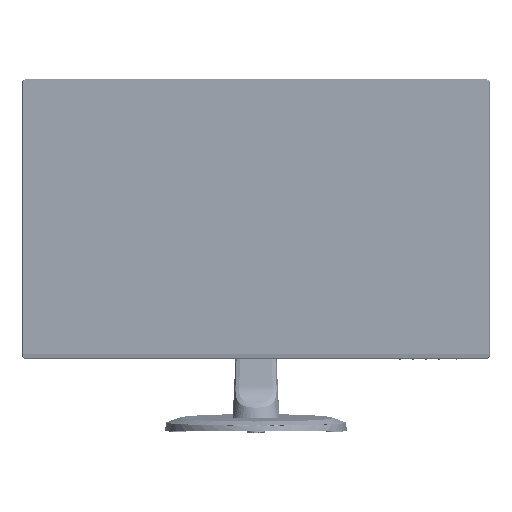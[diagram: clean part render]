
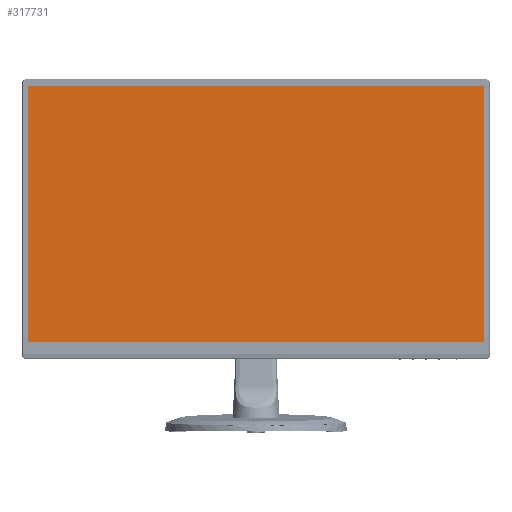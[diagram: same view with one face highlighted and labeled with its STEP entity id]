
A CAD part, top view. The second image highlights one B-rep face of the part: STEP entity #317731.
In plain terms, the highlighted planar face has unit normal (0, 0, 1).
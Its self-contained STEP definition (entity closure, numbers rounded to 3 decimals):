
#11336 = EDGE_CURVE ( 'NONE', #324797, #136561, #379118, .T. ) ;
#31241 = EDGE_CURVE ( 'NONE', #291887, #168637, #196920, .T. ) ;
#39149 = CARTESIAN_POINT ( 'NONE',  ( -263.52, 148.22, 0.15 ) ) ;
#44571 = CARTESIAN_POINT ( 'NONE',  ( -263.52, -148.24, 0.15 ) ) ;
#51333 = CARTESIAN_POINT ( 'NONE',  ( 263.52, 148.22, 0.15 ) ) ;
#58739 = VECTOR ( 'NONE', #305326, 1000. ) ;
#66582 = VECTOR ( 'NONE', #372399, 1000. ) ;
#76802 = LINE ( 'NONE', #44571, #66582 ) ;
#110867 = CARTESIAN_POINT ( 'NONE',  ( 263.52, 148.22, 0.15 ) ) ;
#117247 = DIRECTION ( 'NONE',  ( 0., 1., 0. ) ) ;
#132276 = EDGE_CURVE ( 'NONE', #168637, #324797, #76802, .T. ) ;
#136561 = VERTEX_POINT ( 'NONE', #110867 ) ;
#148657 = VECTOR ( 'NONE', #117247, 1000. ) ;
#160298 = CARTESIAN_POINT ( 'NONE',  ( -263.52, 148.22, 0.15 ) ) ;
#164677 = ORIENTED_EDGE ( 'NONE', *, *, #11336, .T. ) ;
#168637 = VERTEX_POINT ( 'NONE', #400465 ) ;
#196920 = LINE ( 'NONE', #39149, #58739 ) ;
#220431 = AXIS2_PLACEMENT_3D ( 'NONE', #280586, #313396, #251864 ) ;
#251864 = DIRECTION ( 'NONE',  ( 1., 0., 0. ) ) ;
#262175 = EDGE_LOOP ( 'NONE', ( #268904, #345392, #164677, #299513 ) ) ;
#263082 = FACE_OUTER_BOUND ( 'NONE', #262175, .T. ) ;
#268904 = ORIENTED_EDGE ( 'NONE', *, *, #31241, .T. ) ;
#276522 = CARTESIAN_POINT ( 'NONE',  ( 263.52, -148.24, 0.15 ) ) ;
#280586 = CARTESIAN_POINT ( 'NONE',  ( 0., 0., 0.15 ) ) ;
#283368 = PLANE ( 'NONE',  #220431 ) ;
#291887 = VERTEX_POINT ( 'NONE', #320672 ) ;
#299513 = ORIENTED_EDGE ( 'NONE', *, *, #328149, .T. ) ;
#305326 = DIRECTION ( 'NONE',  ( 0., -1., 0. ) ) ;
#313396 = DIRECTION ( 'NONE',  ( 0., 0., 1. ) ) ;
#317731 = ADVANCED_FACE ( 'NONE', ( #263082 ), #283368, .T. ) ;
#320672 = CARTESIAN_POINT ( 'NONE',  ( -263.52, 148.22, 0.15 ) ) ;
#324797 = VERTEX_POINT ( 'NONE', #276522 ) ;
#328149 = EDGE_CURVE ( 'NONE', #136561, #291887, #422044, .T. ) ;
#334908 = VECTOR ( 'NONE', #389350, 1000. ) ;
#345392 = ORIENTED_EDGE ( 'NONE', *, *, #132276, .T. ) ;
#372399 = DIRECTION ( 'NONE',  ( 1., 0., 0. ) ) ;
#379118 = LINE ( 'NONE', #51333, #148657 ) ;
#389350 = DIRECTION ( 'NONE',  ( -1., 0., 0. ) ) ;
#400465 = CARTESIAN_POINT ( 'NONE',  ( -263.52, -148.24, 0.15 ) ) ;
#422044 = LINE ( 'NONE', #160298, #334908 ) ;
